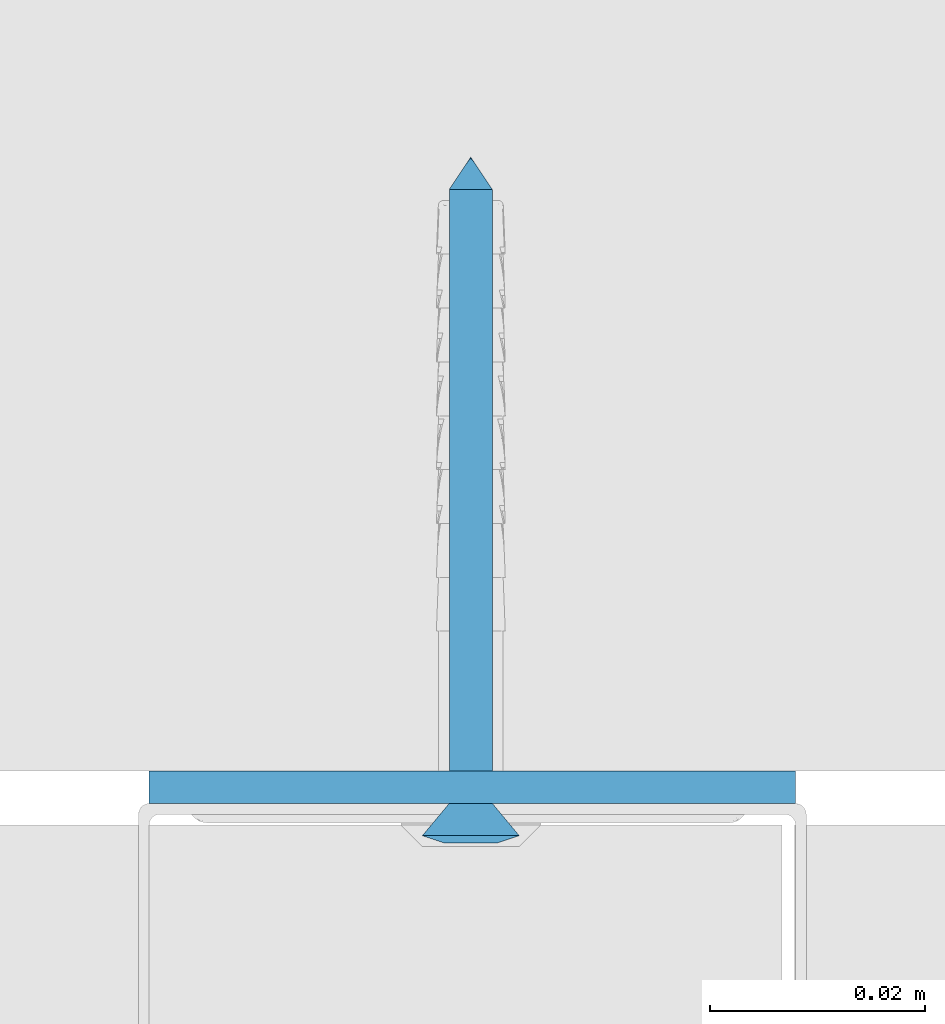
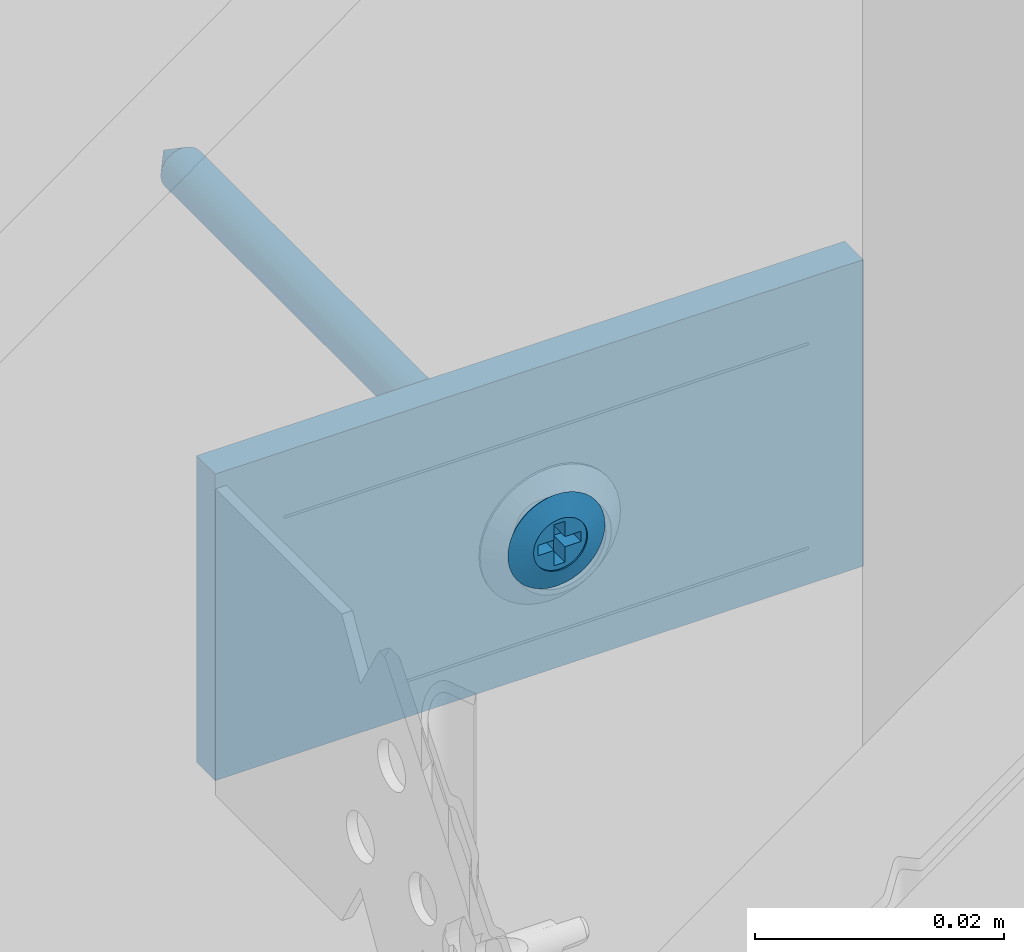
# One storey, part 17 of 48: 2 walls.
"""IFC2X3 building model written with IfcOpenShell, lengths in millimetres."""

from ifc_helpers import new_model, entity, si_unit, converted_unit, direction, frame, origin, origin_with_axes, place, context, project, spatial, faceted_brep, element, save


model = new_model("IFC2X3")

# Units and contexts
model_context = context("Model", 3, precision=1e-05, world=origin(), true_north=direction((0.0, 1.0, 0.0)))
ifc_project = project(units=[si_unit("LENGTHUNIT", "METRE", prefix="MILLI"), si_unit("AREAUNIT", "SQUARE_METRE"), si_unit("VOLUMEUNIT", "CUBIC_METRE"), converted_unit("PLANEANGLEUNIT", "DEGREE", entity("IfcPlaneAngleMeasure", 0.01745), si_unit("PLANEANGLEUNIT", "RADIAN"), dimensions=[0, 0, 0, 0, 0, 0, 0]), si_unit("SOLIDANGLEUNIT", "STERADIAN"), si_unit("MASSUNIT", "GRAM"), si_unit("TIMEUNIT", "SECOND"), si_unit("THERMODYNAMICTEMPERATUREUNIT", "DEGREE_CELSIUS"), si_unit("LUMINOUSINTENSITYUNIT", "LUMEN")], contexts=[model_context])

# Site, building, storey
site_placement = place(None, origin_with_axes())
site = spatial("IfcSite", under=ifc_project, at=site_placement, Name="Default Site", CompositionType="ELEMENT")
building_placement = place(site_placement, origin_with_axes())
building = spatial("IfcBuilding", under=site, at=building_placement, Name="Default Building", CompositionType="ELEMENT")
storey_placement = place(building_placement, origin_with_axes())
storey = spatial("IfcBuildingStorey", under=building, at=storey_placement, Name="Default Building Storey", CompositionType="ELEMENT", Elevation=0.0)

# Walls
wall_1_placement = place(storey_placement, frame((6587.251173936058, 2015.690922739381, 1539.813288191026), z_axis=(-6.858158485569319e-13, -1.0, 7.642380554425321e-14), x_axis=(-1.647602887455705e-11, 7.642380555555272e-14, 1.0)))
element("IfcWall", 1, at=wall_1_placement, inside=storey, Name="Kołek rozporowy min. fi 6", context=model_context, shape_type="Brep", body=[
    faceted_brep([(-1438.31414949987, 3453.283223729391, -0.4642567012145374), (-1435.814149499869, 3453.283223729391, -3.464256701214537), (-1435.78952618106, 3452.97035479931, -3.464256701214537), (-1438.258747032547, 3452.57926863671, -0.4642567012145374), (-1435.71626253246, 3452.665189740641, -3.464256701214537), (-1438.093903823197, 3451.892647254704, -0.4642567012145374), (-1435.596162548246, 3452.375242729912, -3.464256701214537), (-1437.823678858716, 3451.240266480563, -0.4642567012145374), (-1435.432183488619, 3452.107653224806, -3.464256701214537), (-1437.454725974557, 3450.638190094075, -0.4642567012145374), (-1435.228363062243, 3451.869010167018, -3.464256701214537), (-1436.996130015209, 3450.101243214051, -0.4642567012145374), (-1434.989720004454, 3451.665189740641, -3.464256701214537), (-1436.459183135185, 3449.642647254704, -0.4642567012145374), (-1434.722130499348, 3451.501210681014, -3.464256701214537), (-1435.857106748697, 3449.273694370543, -0.4642567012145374), (-1434.432183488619, 3451.381110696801, -3.464256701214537), (-1435.204725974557, 3449.003469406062, -0.4642567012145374), (-1434.12701842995, 3451.307847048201, -3.464256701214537), (-1434.51810459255, 3448.838626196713, -0.4642567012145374), (-1433.814149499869, 3451.283223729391, -3.464256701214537), (-1433.814149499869, 3448.783223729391, -0.4642567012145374), (-1433.501280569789, 3451.307847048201, -3.464256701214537), (-1433.110194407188, 3448.838626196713, -0.4642567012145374), (-1433.19611551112, 3451.381110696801, -3.464256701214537), (-1432.423573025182, 3449.003469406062, -0.4642567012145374), (-1432.906168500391, 3451.501210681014, -3.464256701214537), (-1431.771192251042, 3449.273694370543, -0.4642567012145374), (-1432.638578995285, 3451.665189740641, -3.464256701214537), (-1431.169115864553, 3449.642647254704, -0.4642567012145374), (-1432.399935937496, 3451.869010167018, -3.464256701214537), (-1430.63216898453, 3450.101243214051, -0.4642567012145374), (-1432.196115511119, 3452.107653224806, -3.464256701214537), (-1430.173573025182, 3450.638190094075, -0.4642567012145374), (-1432.032136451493, 3452.375242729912, -3.464256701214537), (-1429.804620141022, 3451.240266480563, -0.4642567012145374), (-1431.912036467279, 3452.665189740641, -3.464256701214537), (-1429.534395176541, 3451.892647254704, -0.4642567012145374), (-1431.838772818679, 3453.596092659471, -3.464256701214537), (-1429.369551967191, 3453.987178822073, -0.4642567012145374), (-1429.314149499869, 3453.283223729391, -0.4642567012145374), (-1431.81414949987, 3453.283223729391, -3.464256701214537), (-1429.369551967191, 3452.57926863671, -0.4642567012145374), (-1431.838772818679, 3452.97035479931, -3.464256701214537), (-1431.912036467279, 3453.901257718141, -3.464256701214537), (-1429.534395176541, 3454.673800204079, -0.4642567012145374), (-1432.032136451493, 3454.19120472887, -3.464256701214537), (-1429.804620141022, 3455.326180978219, -0.4642567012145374), (-1432.196115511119, 3454.458794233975, -3.464256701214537), (-1430.173573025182, 3455.928257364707, -0.4642567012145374), (-1432.399935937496, 3454.697437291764, -3.464256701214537), (-1430.63216898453, 3456.465204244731, -0.4642567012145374), (-1432.638578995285, 3454.901257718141, -3.464256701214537), (-1431.169115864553, 3456.923800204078, -0.4642567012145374), (-1432.906168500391, 3455.065236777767, -3.464256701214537), (-1431.771192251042, 3457.292753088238, -0.4642567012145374), (-1433.19611551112, 3455.185336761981, -3.464256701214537), (-1432.423573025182, 3457.562978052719, -0.4642567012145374), (-1433.501280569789, 3455.258600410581, -3.464256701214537), (-1433.110194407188, 3457.727821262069, -0.4642567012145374), (-1433.814149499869, 3455.283223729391, -3.464256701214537), (-1433.814149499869, 3457.783223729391, -0.4642567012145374), (-1434.34306778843, 3457.752031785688, -0.4642567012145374), (-1434.12701842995, 3455.258600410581, -3.464256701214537), (-1434.432183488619, 3455.185336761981, -3.464256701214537), (-1434.864653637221, 3457.658888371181, -0.4642567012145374), (-1435.371676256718, 3457.505084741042, -0.4642567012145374), (-1434.722130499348, 3455.065236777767, -3.464256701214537), (-1435.857106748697, 3457.292753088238, -0.4642567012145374), (-1434.989720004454, 3454.901257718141, -3.464256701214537), (-1435.228363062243, 3454.697437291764, -3.464256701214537), (-1436.314215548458, 3457.024836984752, -0.4642567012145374), (-1436.736665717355, 3456.705050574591, -0.4642567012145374), (-1437.11860079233, 3456.337827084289, -0.4642567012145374), (-1437.454725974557, 3455.928257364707, -0.4642567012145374), (-1435.432183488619, 3454.458794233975, -3.464256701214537), (-1435.596162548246, 3454.19120472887, -3.464256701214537), (-1437.823678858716, 3455.326180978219, -0.4642567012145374), (-1435.71626253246, 3453.901257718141, -3.464256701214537), (-1438.093903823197, 3454.673800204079, -0.4642567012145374), (-1435.78952618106, 3453.596092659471, -3.464256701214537), (-1438.258747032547, 3453.987178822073, -0.4642567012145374), (-1434.205235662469, 3455.752444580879, 0.2007375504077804), (-1433.814149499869, 3455.78322372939, 0.2007375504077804), (-1434.586691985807, 3455.660865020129, 0.2007375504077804), (-1434.949125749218, 3455.510740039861, 0.2007375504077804), (-1435.283612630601, 3455.305766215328, 0.2007375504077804), (-1435.581916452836, 3455.050990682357, 0.2007375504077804), (-1435.836691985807, 3454.752686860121, 0.2007375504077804), (-1436.04166581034, 3454.41819997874, 0.2007375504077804), (-1436.191790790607, 3454.055766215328, 0.2007375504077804), (-1436.283370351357, 3453.674309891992, 0.2007375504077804), (-1436.314149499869, 3453.283223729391, 0.2007375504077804), (-1436.283370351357, 3452.892137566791, 0.2007375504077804), (-1436.191790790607, 3452.510681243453, 0.2007375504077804), (-1436.04166581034, 3452.148247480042, 0.2007375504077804), (-1435.836691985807, 3451.81376059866, 0.200737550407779), (-1435.581916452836, 3451.515456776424, 0.2007375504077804), (-1435.283612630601, 3451.260681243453, 0.2007375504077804), (-1434.949125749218, 3451.05570741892, 0.2007375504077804), (-1434.586691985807, 3450.905582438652, 0.2007375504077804), (-1433.423063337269, 3450.814002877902, 0.2007375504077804), (-1433.814149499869, 3450.783223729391, 0.2007375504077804), (-1434.205235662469, 3450.814002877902, 0.2007375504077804), (-1433.041607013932, 3450.905582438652, 0.2007375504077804), (-1432.67917325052, 3451.05570741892, 0.2007375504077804), (-1432.344686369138, 3451.260681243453, 0.2007375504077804), (-1432.046382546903, 3451.515456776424, 0.2007375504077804), (-1431.791607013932, 3451.81376059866, 0.2007375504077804), (-1431.586633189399, 3452.148247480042, 0.2007375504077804), (-1431.436508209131, 3452.510681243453, 0.2007375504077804), (-1431.344928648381, 3452.892137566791, 0.2007375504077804), (-1431.314149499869, 3453.283223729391, 0.2007375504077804), (-1431.344928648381, 3453.674309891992, 0.2007375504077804), (-1431.436508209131, 3454.055766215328, 0.2007375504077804), (-1431.586633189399, 3454.41819997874, 0.2007375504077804), (-1431.791607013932, 3454.752686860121, 0.2007375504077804), (-1432.046382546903, 3455.050990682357, 0.2007375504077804), (-1432.344686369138, 3455.305766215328, 0.2007375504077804), (-1432.67917325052, 3455.510740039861, 0.2007375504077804), (-1433.041607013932, 3455.660865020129, 0.2007375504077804), (-1433.423063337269, 3455.752444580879, 0.2007375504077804), (-1433.814149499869, 3453.283223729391, -63.46425670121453), (-1435.789526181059, 3452.97035479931, -60.46425670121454), (-1435.814149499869, 3453.283223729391, -60.46425670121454), (-1435.716262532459, 3452.665189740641, -60.46425670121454), (-1435.596162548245, 3452.375242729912, -60.46425670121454), (-1435.432183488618, 3452.107653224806, -60.46425670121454), (-1435.228363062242, 3451.869010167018, -60.46425670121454), (-1434.989720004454, 3451.665189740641, -60.46425670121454), (-1434.722130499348, 3451.501210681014, -60.46425670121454), (-1434.432183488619, 3451.381110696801, -60.46425670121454), (-1434.127018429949, 3451.307847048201, -60.46425670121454), (-1433.814149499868, 3451.283223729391, -60.46425670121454), (-1433.501280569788, 3451.307847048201, -60.46425670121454), (-1433.196115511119, 3451.381110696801, -60.46425670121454), (-1432.90616850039, 3451.501210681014, -60.46425670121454), (-1432.638578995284, 3451.665189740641, -60.46425670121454), (-1432.399935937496, 3451.869010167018, -60.46425670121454), (-1432.196115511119, 3452.107653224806, -60.46425670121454), (-1432.032136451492, 3452.375242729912, -60.46425670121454), (-1431.912036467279, 3452.665189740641, -60.46425670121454), (-1431.838772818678, 3452.97035479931, -60.46425670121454), (-1431.814149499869, 3453.283223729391, -60.46425670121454), (-1431.838772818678, 3453.596092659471, -60.46425670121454), (-1431.912036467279, 3453.901257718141, -60.46425670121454), (-1432.032136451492, 3454.19120472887, -60.46425670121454), (-1432.196115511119, 3454.458794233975, -60.46425670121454), (-1432.399935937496, 3454.697437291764, -60.46425670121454), (-1432.638578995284, 3454.901257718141, -60.46425670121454), (-1432.90616850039, 3455.065236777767, -60.46425670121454), (-1433.196115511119, 3455.185336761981, -60.46425670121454), (-1433.501280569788, 3455.258600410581, -60.46425670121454), (-1433.814149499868, 3455.283223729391, -60.46425670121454), (-1434.127018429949, 3455.258600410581, -60.46425670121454), (-1434.432183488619, 3455.185336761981, -60.46425670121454), (-1434.722130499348, 3455.065236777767, -60.46425670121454), (-1434.989720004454, 3454.901257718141, -60.46425670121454), (-1435.228363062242, 3454.697437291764, -60.46425670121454), (-1435.432183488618, 3454.458794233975, -60.46425670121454), (-1435.596162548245, 3454.19120472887, -60.46425670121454), (-1435.716262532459, 3453.901257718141, -60.46425670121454), (-1435.789526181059, 3453.596092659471, -60.46425670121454), (-1435.814149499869, 3453.783223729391, 0.04999999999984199), (-1436.04166581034, 3454.41819997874, 0.04999999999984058), (-1436.191790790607, 3454.055766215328, 0.04999999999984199), (-1435.814149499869, 3452.783223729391, 0.04999999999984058), (-1434.314149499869, 3453.783223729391, 0.04999999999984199), (-1434.314149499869, 3455.28322372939, 0.04999999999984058), (-1433.314149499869, 3455.28322372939, 0.04999999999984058), (-1433.314149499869, 3453.783223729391, 0.04999999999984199), (-1431.814149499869, 3453.783223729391, 0.04999999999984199), (-1431.814149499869, 3452.783223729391, 0.04999999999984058), (-1433.314149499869, 3452.783223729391, 0.04999999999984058), (-1433.314149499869, 3451.283223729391, 0.04999999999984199), (-1434.314149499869, 3451.283223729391, 0.04999999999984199), (-1434.314149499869, 3452.783223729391, 0.04999999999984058), (-1436.283370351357, 3453.674309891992, 0.04999999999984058), (-1436.314149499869, 3453.283223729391, 0.04999999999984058), (-1436.283370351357, 3452.892137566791, 0.04999999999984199), (-1436.191790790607, 3452.510681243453, 0.04999999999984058), (-1436.04166581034, 3452.148247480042, 0.04999999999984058), (-1435.836691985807, 3451.81376059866, 0.04999999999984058), (-1435.581916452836, 3451.515456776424, 0.04999999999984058), (-1435.283612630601, 3451.260681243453, 0.04999999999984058), (-1434.949125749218, 3451.05570741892, 0.04999999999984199), (-1434.586691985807, 3450.905582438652, 0.04999999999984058), (-1434.205235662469, 3450.814002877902, 0.04999999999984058), (-1433.814149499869, 3450.783223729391, 0.04999999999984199), (-1433.423063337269, 3450.814002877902, 0.04999999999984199), (-1433.041607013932, 3450.905582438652, 0.04999999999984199), (-1432.67917325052, 3451.05570741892, 0.04999999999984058), (-1432.344686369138, 3451.260681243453, 0.04999999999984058), (-1432.046382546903, 3451.515456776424, 0.04999999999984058), (-1431.791607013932, 3451.81376059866, 0.04999999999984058), (-1431.586633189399, 3452.148247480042, 0.04999999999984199), (-1431.436508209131, 3452.510681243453, 0.04999999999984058), (-1431.344928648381, 3452.892137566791, 0.04999999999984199), (-1431.314149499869, 3453.283223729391, 0.04999999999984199), (-1431.344928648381, 3453.674309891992, 0.04999999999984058), (-1431.436508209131, 3454.055766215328, 0.04999999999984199), (-1431.586633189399, 3454.41819997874, 0.04999999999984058), (-1431.791607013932, 3454.752686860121, 0.04999999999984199), (-1432.046382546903, 3455.050990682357, 0.04999999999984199), (-1432.344686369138, 3455.305766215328, 0.04999999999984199), (-1432.67917325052, 3455.510740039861, 0.04999999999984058), (-1433.041607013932, 3455.660865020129, 0.04999999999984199), (-1433.423063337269, 3455.752444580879, 0.04999999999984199), (-1433.814149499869, 3455.78322372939, 0.04999999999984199), (-1434.205235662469, 3455.752444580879, 0.04999999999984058), (-1434.586691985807, 3455.660865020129, 0.04999999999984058), (-1434.949125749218, 3455.510740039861, 0.04999999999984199), (-1435.283612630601, 3455.305766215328, 0.04999999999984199), (-1435.581916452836, 3455.050990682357, 0.04999999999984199), (-1435.836691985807, 3454.752686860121, 0.04999999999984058), (-1434.314149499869, 3452.783223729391, -1.79926244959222), (-1434.314149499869, 3451.283223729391, -1.799262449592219), (-1433.314149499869, 3451.283223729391, -1.799262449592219), (-1433.314149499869, 3452.783223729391, -1.79926244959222), (-1431.81414949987, 3452.783223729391, -1.79926244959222), (-1431.81414949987, 3453.783223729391, -1.799262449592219), (-1433.314149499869, 3453.783223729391, -1.799262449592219), (-1433.314149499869, 3455.28322372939, -1.79926244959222), (-1434.314149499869, 3455.28322372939, -1.79926244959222), (-1434.314149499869, 3453.783223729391, -1.799262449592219), (-1435.814149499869, 3453.783223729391, -1.799262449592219), (-1435.814149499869, 3452.783223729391, -1.79926244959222)], [[[0, 1, 2, 3]], [[4, 5, 3, 2]], [[6, 7, 5, 4]], [[7, 6, 8, 9]], [[10, 11, 9, 8]], [[11, 10, 12, 13]], [[14, 15, 13, 12]], [[16, 17, 15, 14]], [[17, 16, 18, 19]], [[20, 21, 19, 18]], [[21, 20, 22, 23]], [[24, 25, 23, 22]], [[26, 27, 25, 24]], [[27, 26, 28, 29]], [[30, 31, 29, 28]], [[31, 30, 32, 33]], [[34, 35, 33, 32]], [[36, 37, 35, 34]], [[38, 39, 40, 41]], [[41, 40, 42, 43]], [[37, 36, 43, 42]], [[44, 45, 39, 38]], [[46, 47, 45, 44]], [[47, 46, 48, 49]], [[50, 51, 49, 48]], [[51, 50, 52, 53]], [[54, 55, 53, 52]], [[56, 57, 55, 54]], [[57, 56, 58, 59]], [[60, 61, 59, 58]], [[62, 61, 63]], [[61, 60, 63]], [[63, 64, 62]], [[64, 65, 62]], [[66, 65, 64]], [[64, 67, 66]], [[67, 68, 66]], [[69, 70, 71]], [[70, 72, 71]], [[71, 68, 69]], [[68, 67, 69]], [[70, 73, 72]], [[74, 73, 75]], [[73, 70, 75]], [[76, 77, 74, 75]], [[78, 79, 77, 76]], [[79, 78, 80, 81]], [[1, 0, 81, 80]], [[82, 83, 62]], [[83, 61, 62]], [[62, 65, 82]], [[65, 84, 82]], [[66, 68, 84]], [[68, 85, 84]], [[84, 65, 66]], [[86, 85, 71]], [[85, 68, 71]], [[72, 73, 87]], [[87, 86, 72]], [[86, 71, 72]], [[88, 87, 74]], [[87, 73, 74]], [[77, 89, 88, 74]], [[79, 90, 89, 77]], [[90, 79, 81, 91]], [[0, 92, 91, 81]], [[92, 0, 3, 93]], [[5, 94, 93, 3]], [[7, 95, 94, 5]], [[95, 7, 9, 96]], [[11, 97, 96, 9]], [[97, 11, 13, 98]], [[15, 99, 98, 13]], [[17, 100, 99, 15]], [[23, 101, 102, 21]], [[21, 102, 103, 19]], [[100, 17, 19, 103]], [[25, 104, 101, 23]], [[27, 105, 104, 25]], [[105, 27, 29, 106]], [[31, 107, 106, 29]], [[107, 31, 33, 108]], [[35, 109, 108, 33]], [[37, 110, 109, 35]], [[110, 37, 42, 111]], [[40, 112, 111, 42]], [[112, 40, 39, 113]], [[45, 114, 113, 39]], [[47, 115, 114, 45]], [[115, 47, 49, 116]], [[51, 117, 116, 49]], [[117, 51, 53, 118]], [[55, 119, 118, 53]], [[57, 120, 119, 55]], [[120, 57, 59, 121]], [[61, 83, 121, 59]], [[122, 123, 124]], [[122, 125, 123]], [[122, 126, 125]], [[127, 126, 122]], [[122, 128, 127]], [[129, 128, 122]], [[122, 130, 129]], [[122, 131, 130]], [[132, 131, 122]], [[122, 133, 132]], [[134, 133, 122]], [[122, 135, 134]], [[122, 136, 135]], [[137, 136, 122]], [[122, 138, 137]], [[139, 138, 122]], [[122, 140, 139]], [[122, 141, 140]], [[142, 141, 122]], [[122, 143, 142]], [[144, 143, 122]], [[122, 145, 144]], [[122, 146, 145]], [[147, 146, 122]], [[122, 148, 147]], [[149, 148, 122]], [[122, 150, 149]], [[122, 151, 150]], [[152, 151, 122]], [[122, 153, 152]], [[154, 153, 122]], [[122, 155, 154]], [[122, 156, 155]], [[157, 156, 122]], [[122, 158, 157]], [[159, 158, 122]], [[122, 160, 159]], [[122, 161, 160]], [[162, 161, 122]], [[124, 162, 122]], [[1, 124, 123, 2]], [[125, 4, 2, 123]], [[126, 6, 4, 125]], [[6, 126, 127, 8]], [[128, 10, 8, 127]], [[10, 128, 129, 12]], [[130, 14, 12, 129]], [[131, 16, 14, 130]], [[16, 131, 132, 18]], [[133, 20, 18, 132]], [[20, 133, 134, 22]], [[135, 24, 22, 134]], [[136, 26, 24, 135]], [[26, 136, 137, 28]], [[138, 30, 28, 137]], [[30, 138, 139, 32]], [[140, 34, 32, 139]], [[141, 36, 34, 140]], [[144, 38, 41, 143]], [[143, 41, 43, 142]], [[36, 141, 142, 43]], [[145, 44, 38, 144]], [[146, 46, 44, 145]], [[46, 146, 147, 48]], [[148, 50, 48, 147]], [[50, 148, 149, 52]], [[150, 54, 52, 149]], [[151, 56, 54, 150]], [[56, 151, 152, 58]], [[153, 60, 58, 152]], [[60, 153, 154, 63]], [[155, 64, 63, 154]], [[156, 67, 64, 155]], [[67, 156, 157, 69]], [[158, 70, 69, 157]], [[70, 158, 159, 75]], [[160, 76, 75, 159]], [[161, 78, 76, 160]], [[78, 161, 162, 80]], [[124, 1, 80, 162]], [[163, 164, 165, 166]], [[163, 167, 168, 169, 170, 171, 172, 173, 174, 175, 176, 166, 165, 177, 178, 179, 180, 181, 182, 183, 184, 185, 186, 187, 188, 189, 190, 191, 192, 193, 194, 195, 196, 197, 198, 199, 200, 201, 202, 203, 204, 205, 206, 207, 208, 209, 210, 211, 212, 213, 214, 164]], [[199, 198, 112, 113]], [[113, 114, 200, 199]], [[114, 115, 201, 200]], [[202, 201, 115, 116]], [[116, 117, 203, 202]], [[204, 203, 117, 118]], [[118, 119, 205, 204]], [[119, 120, 206, 205]], [[207, 206, 120, 121]], [[121, 83, 208, 207]], [[209, 208, 83, 82]], [[82, 84, 210, 209]], [[84, 85, 211, 210]], [[212, 211, 85, 86]], [[86, 87, 213, 212]], [[214, 213, 87, 88]], [[88, 89, 164, 214]], [[89, 90, 165, 164]], [[92, 93, 179, 178]], [[91, 92, 178, 177]], [[177, 165, 90, 91]], [[93, 94, 180, 179]], [[94, 95, 181, 180]], [[182, 181, 95, 96]], [[96, 97, 183, 182]], [[184, 183, 97, 98]], [[98, 99, 185, 184]], [[99, 100, 186, 185]], [[187, 186, 100, 103]], [[103, 102, 188, 187]], [[189, 188, 102, 101]], [[101, 104, 190, 189]], [[104, 105, 191, 190]], [[192, 191, 105, 106]], [[106, 107, 193, 192]], [[194, 193, 107, 108]], [[108, 109, 195, 194]], [[109, 110, 196, 195]], [[197, 196, 110, 111]], [[111, 112, 198, 197]], [[215, 216, 217, 218, 219, 220, 221, 222, 223, 224, 225, 226]], [[216, 175, 174, 217]], [[215, 176, 175, 216]], [[226, 166, 176, 215]], [[225, 163, 166, 226]], [[224, 167, 163, 225]], [[223, 168, 167, 224]], [[222, 169, 168, 223]], [[221, 170, 169, 222]], [[220, 171, 170, 221]], [[219, 172, 171, 220]], [[218, 173, 172, 219]], [[217, 174, 173, 218]]]),
])
wall_2_placement = place(storey_placement, frame((3104.111977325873, 2019.140922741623, 121.1016459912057), z_axis=(0.0, 0.0, 1.0), x_axis=(1.0, 0.0, 0.0)))
element("IfcWall", 2, at=wall_2_placement, inside=storey, Name="Taśma uszczelniająca piankowa RIGIPS szer.30mm", context=model_context, shape_type="Brep", body=[
    faceted_brep([(59.99999999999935, 0.0, 4.511946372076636e-12), (0.0, 0.0, 0.0), (1.082867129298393e-12, -2.237925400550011e-11, -30.00000000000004), (60.00000000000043, -2.237925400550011e-11, -29.99999999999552), (0.0, 3.00000000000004, 0.0), (1.082867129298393e-12, 2.999999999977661, -30.00000000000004), (60.00000000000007, 3.00000000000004, 0.0), (60.00000000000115, 2.999999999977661, -30.00000000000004)], [[[0, 1, 2, 3]], [[1, 4, 5, 2]], [[4, 6, 7, 5]], [[6, 0, 3, 7]], [[7, 3, 2, 5]], [[0, 6, 4, 1]]]),
])

save(model, "model.ifc")
